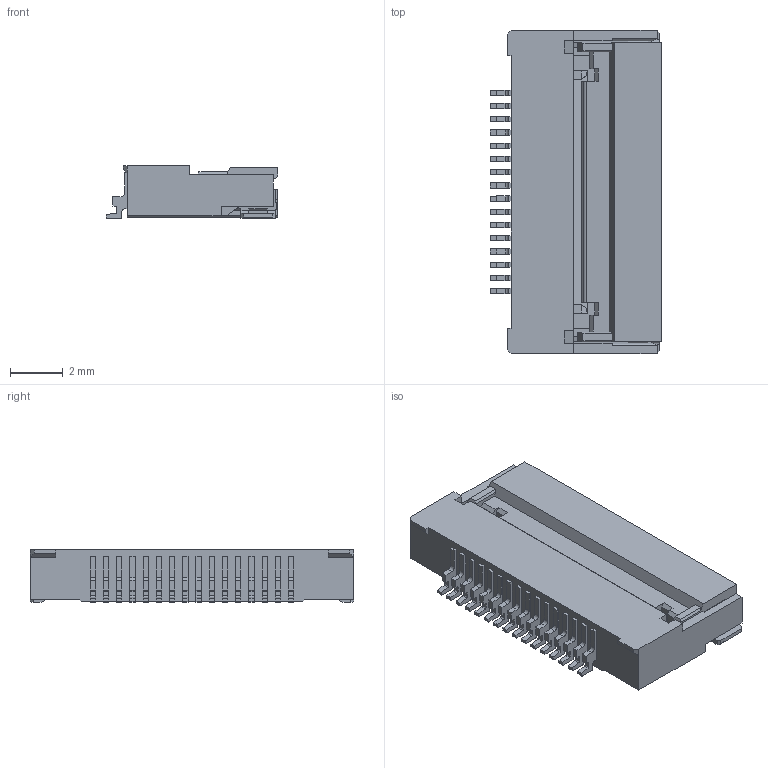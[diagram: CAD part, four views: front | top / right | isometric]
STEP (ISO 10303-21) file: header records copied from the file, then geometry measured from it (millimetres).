
FILE_DESCRIPTION (( 'STEP AP214' ), '1' );
FILE_NAME ('006288016000.STEP', '2023-02-28T05:25:23', ( '' ), ( '' ), 'SwSTEP 2.0', 'SolidWorks 2021', '' );
FILE_SCHEMA (( 'AUTOMOTIVE_DESIGN' ));
Length unit declared in the file: millimetre
Products named in the file (1): 006288016000
Bounding box: 6.5 x 12.24 x 2 mm (x, y, z)
Volume: 99.8 mm3; surface area: 361.4 mm2
Topology: 1 solids, 1 shells, 521 faces, 1499 edges, 992 vertices
Faces by surface type: plane 399, cylinder 122
Entity records: 17023 total; most frequent: CARTESIAN_POINT 3087, ORIENTED_EDGE 2998, DIRECTION 2777, EDGE_CURVE 1499, LINE 1249, VECTOR 1249, VERTEX_POINT 992, AXIS2_PLACEMENT_3D 764
